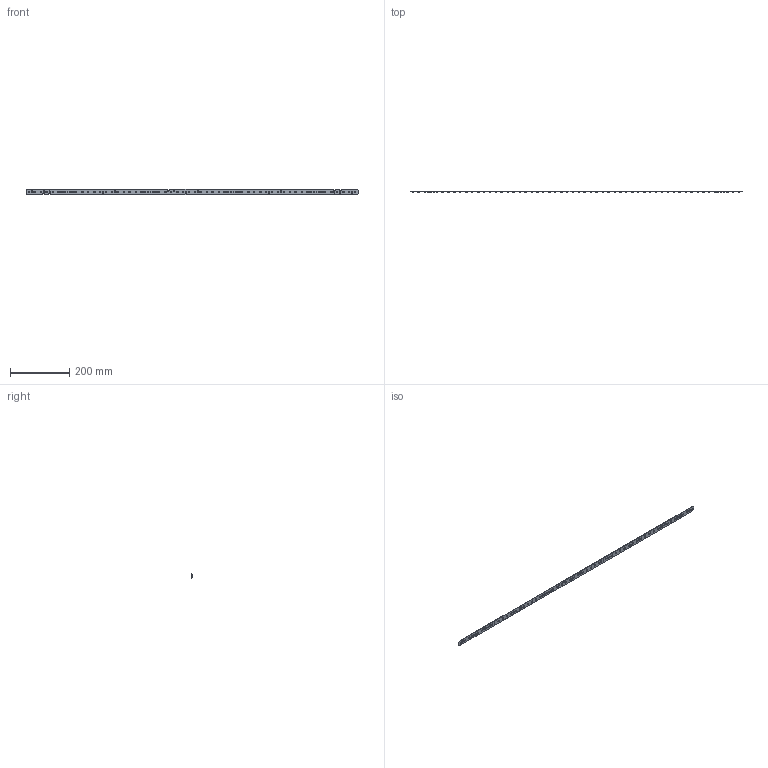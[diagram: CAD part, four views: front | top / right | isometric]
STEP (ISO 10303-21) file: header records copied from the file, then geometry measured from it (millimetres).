
FILE_DESCRIPTION(/* description */ ('Unknown'),/* implementation_level */ '2;1');
FILE_NAME(/* name */ 'LinLED 1120x18mm 1100lm per 1ft 4C 42V G1 (DAISY MINI) sh-000 2022-10-26',/* time_stamp */ '2022-10-26T15:09:46+02:00',/* author */ ('Unknown'),/* organization */ ('Unknown'),/* preprocessor_version */ 'ST-DEVELOPER v18.102',/* originating_system */ 'Solid Edge',/* authorisation */ 'Unknown');
FILE_SCHEMA (('AUTOMOTIVE_DESIGN {1 0 10303 214 3 1 1}'));
Products named in the file (1): LinLED 1120x18mm 1100lm per 1ft 4C 42V G1 (DAISY MINI) sh-000 2022-10
-26
Bounding box: 1119.3 x 4.05 x 18 mm (x, y, z)
Volume: 32154 mm3; surface area: 44814.6 mm2
Topology: 1 solids, 1 shells, 2342 faces, 6188 edges, 4048 vertices
Faces by surface type: plane 2072, cylinder 194, torus 28, bspline 24, cone 20, sphere 4
Full cylindrical faces by diameter (mm): 1.8 x4, 2.1 x4, 2.3 x4
Entity records: 88880 total; most frequent: CARTESIAN_POINT 14619, ORIENTED_EDGE 12336, DIRECTION 10910, EDGE_CURVE 6168, LINE 5552, VECTOR 5552, VERTEX_POINT 4040, AXIS2_PLACEMENT_3D 2679
